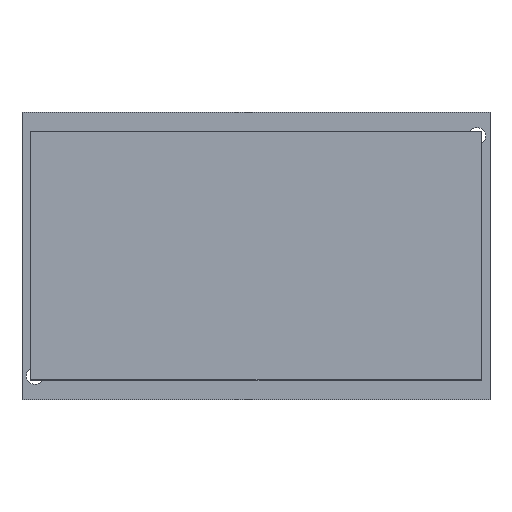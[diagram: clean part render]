
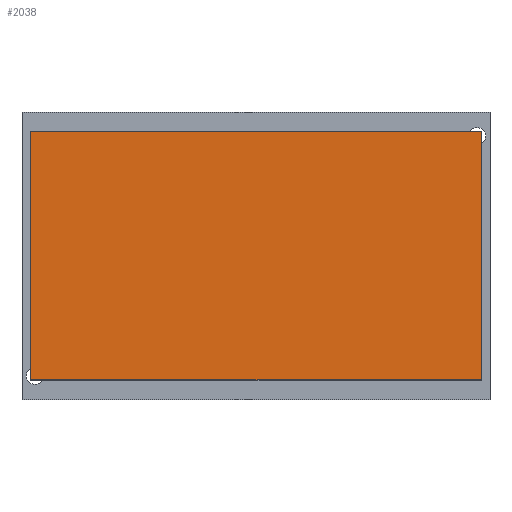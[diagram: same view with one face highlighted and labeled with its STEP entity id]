
A CAD part, top view. The second image highlights one B-rep face of the part: STEP entity #2038.
In plain terms, the highlighted planar face has unit normal (0, 0, 1) as drawn and (0, 0, -1) by its records, which use the part's own axes.
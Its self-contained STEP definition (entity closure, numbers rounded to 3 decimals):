
#817 = PLANE('',#818);
#818 = AXIS2_PLACEMENT_3D('',#819,#820,#821);
#819 = CARTESIAN_POINT('',(-21.1,5.7,2.));
#820 = DIRECTION('',(1.,0.,0.));
#821 = DIRECTION('',(0.,0.,-1.));
#937 = PLANE('',#938);
#938 = AXIS2_PLACEMENT_3D('',#939,#940,#941);
#939 = CARTESIAN_POINT('',(-0.4,5.7,2.));
#940 = DIRECTION('',(-1.,0.,0.));
#941 = DIRECTION('',(0.,0.,1.));
#1001 = PLANE('',#1002);
#1002 = AXIS2_PLACEMENT_3D('',#1003,#1004,#1005);
#1003 = CARTESIAN_POINT('',(-21.1,-5.7,2.));
#1004 = DIRECTION('',(0.,1.,0.));
#1005 = DIRECTION('',(-1.,0.,0.));
#1326 = PLANE('',#1327);
#1327 = AXIS2_PLACEMENT_3D('',#1328,#1329,#1330);
#1328 = CARTESIAN_POINT('',(-21.1,5.7,2.));
#1329 = DIRECTION('',(0.,-1.,0.));
#1330 = DIRECTION('',(1.,0.,0.));
#1517 = VERTEX_POINT('',#1518);
#1518 = CARTESIAN_POINT('',(-21.1,5.7,0.));
#1539 = EDGE_CURVE('',#1517,#1540,#1542,.T.);
#1540 = VERTEX_POINT('',#1541);
#1541 = CARTESIAN_POINT('',(-21.1,-5.7,0.));
#1542 = SURFACE_CURVE('',#1543,(#1547,#1554),.PCURVE_S1.);
#1543 = LINE('',#1544,#1545);
#1544 = CARTESIAN_POINT('',(-21.1,5.7,0.));
#1545 = VECTOR('',#1546,1.);
#1546 = DIRECTION('',(0.,-1.,0.));
#1547 = PCURVE('',#817,#1548);
#1548 = DEFINITIONAL_REPRESENTATION('',(#1549),#1553);
#1549 = LINE('',#1550,#1551);
#1550 = CARTESIAN_POINT('',(2.,0.));
#1551 = VECTOR('',#1552,1.);
#1552 = DIRECTION('',(0.,-1.));
#1553 = ( GEOMETRIC_REPRESENTATION_CONTEXT(2) 
PARAMETRIC_REPRESENTATION_CONTEXT() REPRESENTATION_CONTEXT('2D SPACE',''
  ) );
#1554 = PCURVE('',#1555,#1560);
#1555 = PLANE('',#1556);
#1556 = AXIS2_PLACEMENT_3D('',#1557,#1558,#1559);
#1557 = CARTESIAN_POINT('',(0.,0.,0.));
#1558 = DIRECTION('',(0.,0.,1.));
#1559 = DIRECTION('',(1.,0.,0.));
#1560 = DEFINITIONAL_REPRESENTATION('',(#1561),#1565);
#1561 = LINE('',#1562,#1563);
#1562 = CARTESIAN_POINT('',(-21.1,5.7));
#1563 = VECTOR('',#1564,1.);
#1564 = DIRECTION('',(0.,-1.));
#1565 = ( GEOMETRIC_REPRESENTATION_CONTEXT(2) 
PARAMETRIC_REPRESENTATION_CONTEXT() REPRESENTATION_CONTEXT('2D SPACE',''
  ) );
#1661 = EDGE_CURVE('',#1540,#1662,#1664,.T.);
#1662 = VERTEX_POINT('',#1663);
#1663 = CARTESIAN_POINT('',(-0.4,-5.7,0.));
#1664 = SURFACE_CURVE('',#1665,(#1669,#1676),.PCURVE_S1.);
#1665 = LINE('',#1666,#1667);
#1666 = CARTESIAN_POINT('',(-21.1,-5.7,0.));
#1667 = VECTOR('',#1668,1.);
#1668 = DIRECTION('',(1.,0.,0.));
#1669 = PCURVE('',#1001,#1670);
#1670 = DEFINITIONAL_REPRESENTATION('',(#1671),#1675);
#1671 = LINE('',#1672,#1673);
#1672 = CARTESIAN_POINT('',(0.,-2.));
#1673 = VECTOR('',#1674,1.);
#1674 = DIRECTION('',(-1.,0.));
#1675 = ( GEOMETRIC_REPRESENTATION_CONTEXT(2) 
PARAMETRIC_REPRESENTATION_CONTEXT() REPRESENTATION_CONTEXT('2D SPACE',''
  ) );
#1676 = PCURVE('',#1555,#1677);
#1677 = DEFINITIONAL_REPRESENTATION('',(#1678),#1682);
#1678 = LINE('',#1679,#1680);
#1679 = CARTESIAN_POINT('',(-21.1,-5.7));
#1680 = VECTOR('',#1681,1.);
#1681 = DIRECTION('',(1.,0.));
#1682 = ( GEOMETRIC_REPRESENTATION_CONTEXT(2) 
PARAMETRIC_REPRESENTATION_CONTEXT() REPRESENTATION_CONTEXT('2D SPACE',''
  ) );
#1878 = EDGE_CURVE('',#1662,#1879,#1881,.T.);
#1879 = VERTEX_POINT('',#1880);
#1880 = CARTESIAN_POINT('',(-0.4,5.7,0.));
#1881 = SURFACE_CURVE('',#1882,(#1886,#1893),.PCURVE_S1.);
#1882 = LINE('',#1883,#1884);
#1883 = CARTESIAN_POINT('',(-0.4,5.7,0.));
#1884 = VECTOR('',#1885,1.);
#1885 = DIRECTION('',(0.,1.,0.));
#1886 = PCURVE('',#937,#1887);
#1887 = DEFINITIONAL_REPRESENTATION('',(#1888),#1892);
#1888 = LINE('',#1889,#1890);
#1889 = CARTESIAN_POINT('',(-2.,0.));
#1890 = VECTOR('',#1891,1.);
#1891 = DIRECTION('',(0.,1.));
#1892 = ( GEOMETRIC_REPRESENTATION_CONTEXT(2) 
PARAMETRIC_REPRESENTATION_CONTEXT() REPRESENTATION_CONTEXT('2D SPACE',''
  ) );
#1893 = PCURVE('',#1555,#1894);
#1894 = DEFINITIONAL_REPRESENTATION('',(#1895),#1899);
#1895 = LINE('',#1896,#1897);
#1896 = CARTESIAN_POINT('',(-0.4,5.7));
#1897 = VECTOR('',#1898,1.);
#1898 = DIRECTION('',(0.,1.));
#1899 = ( GEOMETRIC_REPRESENTATION_CONTEXT(2) 
PARAMETRIC_REPRESENTATION_CONTEXT() REPRESENTATION_CONTEXT('2D SPACE',''
  ) );
#2018 = EDGE_CURVE('',#1879,#1517,#2019,.T.);
#2019 = SURFACE_CURVE('',#2020,(#2024,#2031),.PCURVE_S1.);
#2020 = LINE('',#2021,#2022);
#2021 = CARTESIAN_POINT('',(-21.1,5.7,0.));
#2022 = VECTOR('',#2023,1.);
#2023 = DIRECTION('',(-1.,0.,0.));
#2024 = PCURVE('',#1326,#2025);
#2025 = DEFINITIONAL_REPRESENTATION('',(#2026),#2030);
#2026 = LINE('',#2027,#2028);
#2027 = CARTESIAN_POINT('',(0.,-2.));
#2028 = VECTOR('',#2029,1.);
#2029 = DIRECTION('',(-1.,0.));
#2030 = ( GEOMETRIC_REPRESENTATION_CONTEXT(2) 
PARAMETRIC_REPRESENTATION_CONTEXT() REPRESENTATION_CONTEXT('2D SPACE',''
  ) );
#2031 = PCURVE('',#1555,#2032);
#2032 = DEFINITIONAL_REPRESENTATION('',(#2033),#2037);
#2033 = LINE('',#2034,#2035);
#2034 = CARTESIAN_POINT('',(-21.1,5.7));
#2035 = VECTOR('',#2036,1.);
#2036 = DIRECTION('',(-1.,0.));
#2037 = ( GEOMETRIC_REPRESENTATION_CONTEXT(2) 
PARAMETRIC_REPRESENTATION_CONTEXT() REPRESENTATION_CONTEXT('2D SPACE',''
  ) );
#2038 = ADVANCED_FACE('',(#2039),#1555,.F.);
#2039 = FACE_BOUND('',#2040,.T.);
#2040 = EDGE_LOOP('',(#2041,#2042,#2043,#2044));
#2041 = ORIENTED_EDGE('',*,*,#1539,.F.);
#2042 = ORIENTED_EDGE('',*,*,#2018,.F.);
#2043 = ORIENTED_EDGE('',*,*,#1878,.F.);
#2044 = ORIENTED_EDGE('',*,*,#1661,.F.);
